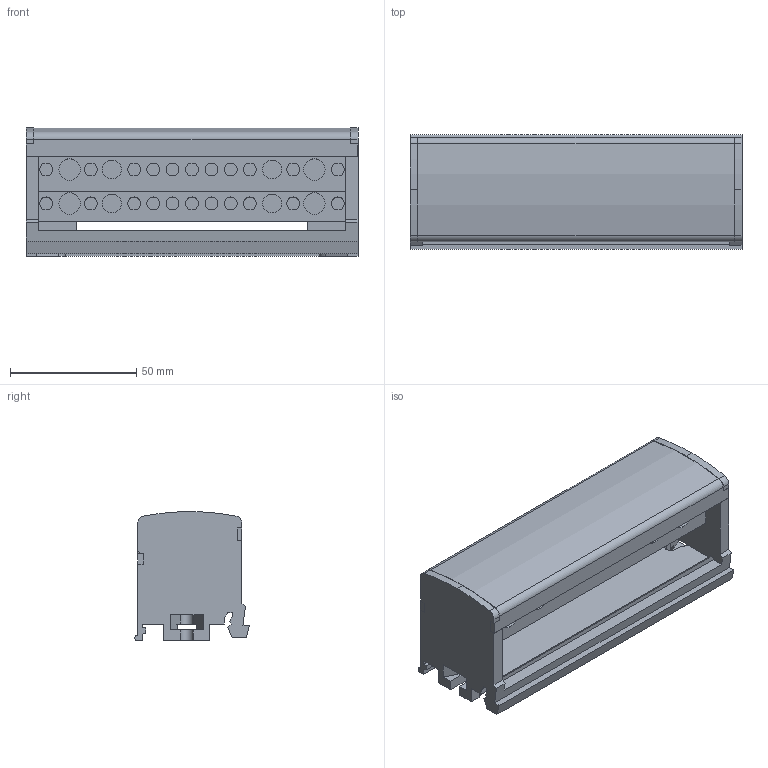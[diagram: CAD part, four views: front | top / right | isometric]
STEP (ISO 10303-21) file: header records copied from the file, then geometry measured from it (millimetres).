
FILE_DESCRIPTION (( 'STEP AP214' ), '1' );
FILE_NAME ('ﾘﾍﾊ 2x15.STEP', '2023-09-25T12:35:07', ( '' ), ( '' ), 'SwSTEP 2.0', 'SolidWorks 2018', '' );
FILE_SCHEMA (( 'AUTOMOTIVE_DESIGN' ));
Length unit declared in the file: millimetre
Products named in the file (3): Êðûøêà ØÍÊ 2x15; Êîðïóñ ØÍÊ 2x15; ﾘﾍﾊ 2x15
Assembly tree (2 placements, depth 2):
  ﾘﾍﾊ 2x15
    Êîðïóñ ØÍÊ 2x15
    Êðûøêà ØÍÊ 2x15
Bounding box: 131.3 x 45.31 x 50.94 mm (x, y, z)
Volume: 85764.5 mm3; surface area: 66152.6 mm2
Topology: 2 solids, 2 shells, 306 faces, 960 edges, 638 vertices
Faces by surface type: plane 162, cylinder 144
Entity records: 11852 total; most frequent: CARTESIAN_POINT 2869, ORIENTED_EDGE 1920, DIRECTION 1800, EDGE_CURVE 960, VERTEX_POINT 638, AXIS2_PLACEMENT_3D 605, LINE 590, VECTOR 590
